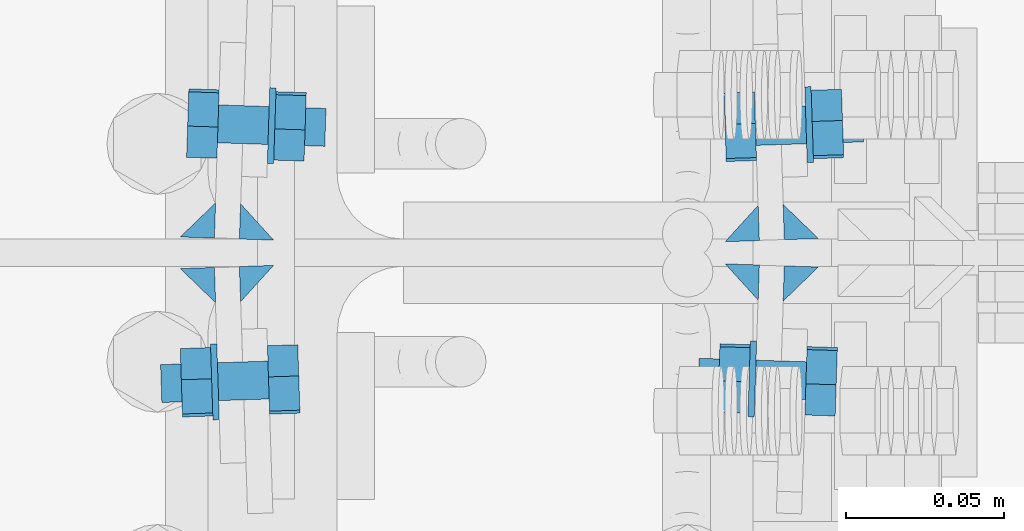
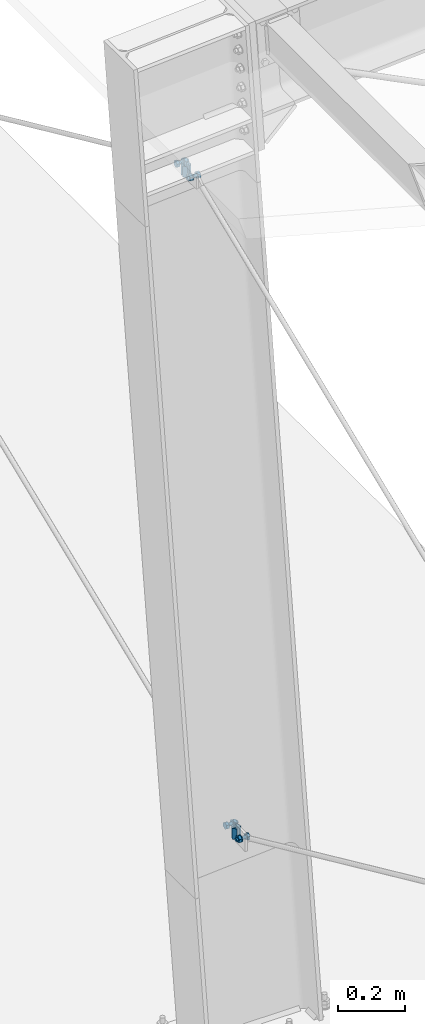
# One storey, part 43 of 72: 16 mechanical fasteners, 8 fasteners.
"""IFC4 building model written with IfcOpenShell, lengths in metres."""

from ifc_helpers import new_model, si_unit, frame, origin_with_axes, place, context, project, spatial, polyline, outline, extrude, type_object, element, save


model = new_model("IFC4")

# Units and contexts
model_context = context("Model", 3, precision=1e-05, world=origin_with_axes())
ifc_project = project(units=[si_unit("LENGTHUNIT", "METRE"), si_unit("AREAUNIT", "SQUARE_METRE"), si_unit("VOLUMEUNIT", "CUBIC_METRE"), si_unit("MASSUNIT", "GRAM", prefix="KILO"), si_unit("TIMEUNIT", "SECOND"), si_unit("PLANEANGLEUNIT", "RADIAN"), si_unit("SOLIDANGLEUNIT", "STERADIAN"), si_unit("THERMODYNAMICTEMPERATUREUNIT", "DEGREE_CELSIUS")], contexts=[model_context])

# Site, building, storey
placement_1 = place(None, origin_with_axes())
site = spatial("IfcSite", under=ifc_project, at=placement_1, Name="Italia", CompositionType="ELEMENT")
building = spatial("IfcBuilding", under=site, at=placement_1, Name="Pensilina", CompositionType="ELEMENT")
storey = spatial("IfcBuildingStorey", under=building, at=placement_1, Name="Storey 0", CompositionType="ELEMENT", Elevation=0.0)

# Mechanical fasteners
mechanical_fastener_type_1 = type_object("IfcMechanicalFastenerType", Name="Collegamento -198_-202", PredefinedType="BOLT")
placement_2 = place(placement_1, origin_with_axes())
mechanical_fastener_1_placement = place(placement_2, origin_with_axes())
element("IfcMechanicalFastener", 1, at=mechanical_fastener_1_placement, inside=storey, type_object=mechanical_fastener_type_1, Name="Collegamento -198_-202", NominalDiameter=0.0119996, context=model_context, shape_type="SweptSolid", body=[
    extrude(outline(polyline([(0.0, 0.0, 0.0), (0.0108347, -0.00515741, 0.0), (0.0207186, 0.00164735, 0.0), (0.0197678, 0.0136096, 0.0), (0.00893307, 0.0187671, 0.0), (-0.000951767, 0.0119622, 0.0), (0.0, 0.0, 0.0)])), frame((0.893182, 10.5096, 0.818424), z_axis=(0.999465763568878, -0.03268326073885, 0.0), x_axis=(0.03268326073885, 0.999465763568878, 0.0)), (0.0, 0.0, 1.0), 0.00959999),
])
mechanical_fastener_type_2 = type_object("IfcMechanicalFastenerType", Name="Collegamento -198_-202", PredefinedType="BOLT")
mechanical_fastener_2_placement = place(placement_2, origin_with_axes())
element("IfcMechanicalFastener", 2, at=mechanical_fastener_2_placement, inside=storey, type_object=mechanical_fastener_type_2, Name="Collegamento -198_-202", NominalDiameter=0.012, context=model_context, shape_type="SweptSolid", body=[
    extrude(outline(polyline([(0.0, 0.0, 0.0), (-0.00020504, -0.00155294, 0.0), (-0.000803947, -0.00300002, 0.0), (-0.00175762, -0.00424266, 0.0), (-0.00300026, -0.00519615, 0.0), (-0.00444794, -0.00579554, 0.0), (-0.00600052, -0.00599998, 0.0), (-0.0075531, -0.00579554, 0.0), (-0.00899982, -0.00519615, 0.0), (-0.0102425, -0.00424266, 0.0), (-0.0111971, -0.00300002, 0.0), (-0.011796, -0.00155294, 0.0), (-0.0120001, 0.0, 0.0), (-0.011796, 0.00155294, 0.0), (-0.0111971, 0.00300002, 0.0), (-0.0102425, 0.00424266, 0.0), (-0.00899982, 0.00519615, 0.0), (-0.0075531, 0.00579554, 0.0), (-0.00600052, 0.00599998, 0.0), (-0.00444794, 0.00579554, 0.0), (-0.00300026, 0.00519615, 0.0), (-0.00175762, 0.00424266, 0.0), (-0.000803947, 0.00300002, 0.0), (-0.00020504, 0.00155294, 0.0), (0.0, 0.0, 0.0)])), frame((0.859719, 10.5266, 0.825229), z_axis=(0.999465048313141, -0.032705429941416, 0.0), x_axis=(0.032705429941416, 0.999465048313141, 0.0)), (0.0, 0.0, 1.0), 0.034),
])
mechanical_fastener_type_3 = type_object("IfcMechanicalFastenerType", Name="Collegamento -198_-202", PredefinedType="BOLT")
mechanical_fastener_3_placement = place(placement_2, origin_with_axes())
element("IfcMechanicalFastener", 3, at=mechanical_fastener_3_placement, inside=storey, type_object=mechanical_fastener_type_3, Name="Collegamento -198_-202", NominalDiameter=0.0119995, context=model_context, shape_type="SweptSolid", body=[
    extrude(outline(polyline([(0.0, 0.0, 0.0), (0.0108356, -0.00515741, 0.0), (0.0207195, 0.00164735, 0.0), (0.0197678, 0.0136096, 0.0), (0.00893307, 0.0187671, 0.0), (-0.000951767, 0.0119622, 0.0), (0.0, 0.0, 0.0)])), frame((0.865596, 10.5105, 0.818424), z_axis=(0.999465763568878, -0.03268326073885, 0.0), x_axis=(0.03268326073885, 0.999465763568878, 0.0)), (0.0, 0.0, 1.0), 0.00959999),
])
mechanical_fastener_type_4 = type_object("IfcMechanicalFastenerType", Name="Collegamento -198_-202", PredefinedType="BOLT")
mechanical_fastener_4_placement = place(placement_2, origin_with_axes())
element("IfcMechanicalFastener", 4, at=mechanical_fastener_4_placement, inside=storey, type_object=mechanical_fastener_type_4, Name="Collegamento -198_-202", NominalDiameter=0.024, context=model_context, shape_type="SweptSolid", body=[
    extrude(outline(polyline([(0.0, 0.0, 0.0), (-0.000408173, -0.00310582, 0.0), (-0.00160789, -0.00599998, 0.0), (-0.00351429, -0.00848526, 0.0), (-0.00600052, -0.0103923, 0.0), (-0.00889397, -0.0115911, 0.0), (-0.0120001, -0.012, 0.0), (-0.0151062, -0.0115911, 0.0), (-0.0179996, -0.0103923, 0.0), (-0.0204859, -0.00848526, 0.0), (-0.0223923, -0.00599998, 0.0), (-0.023592, -0.00310582, 0.0), (-0.0240002, 0.0, 0.0), (-0.023592, 0.00310582, 0.0), (-0.0223923, 0.00599998, 0.0), (-0.0204859, 0.00848526, 0.0), (-0.0179996, 0.0103923, 0.0), (-0.0151062, 0.0115911, 0.0), (-0.0120001, 0.012, 0.0), (-0.00889397, 0.0115911, 0.0), (-0.00600052, 0.0103923, 0.0), (-0.00351429, 0.00848526, 0.0), (-0.00160789, 0.00599998, 0.0), (-0.000408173, 0.00310582, 0.0), (0.0, 0.0, 0.0)])), frame((0.875909, 10.5321, 0.825229), z_axis=(0.999458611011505, -0.032902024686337, 0.0), x_axis=(0.032902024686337, 0.999458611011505, 0.0)), (0.0, 0.0, 1.0), 0.00199998),
])

# Fasteners
fastener_type_1 = type_object("IfcFastenerType", Name="Collegamento -198_-202", PredefinedType="WELD")
fastener_1_placement = place(placement_2, origin_with_axes())
element("IfcFastener", 5, at=fastener_1_placement, inside=storey, type_object=fastener_type_1, Name="Collegamento -198_-202", context=model_context, shape_type="SweptSolid", body=[
    extrude(outline(polyline([(0.0, 0.0, 0.0), (-0.0115223, 0.0104669, 0.0), (-0.000354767, 0.0108324, 0.0), (0.0, 0.0, 0.0)])), frame((0.867914, 10.5565, 0.843087), z_axis=(0.0, 0.0, -1.0), x_axis=(0.0, 1.0, 0.0)), (0.0, 0.0, 1.0), 0.0400996),
])
fastener_type_2 = type_object("IfcFastenerType", Name="Collegamento -198_-202", PredefinedType="WELD")
fastener_2_placement = place(placement_2, origin_with_axes())
element("IfcFastener", 6, at=fastener_2_placement, inside=storey, type_object=fastener_type_2, Name="Collegamento -198_-202", context=model_context, shape_type="SweptSolid", body=[
    extrude(outline(polyline([(0.0, 0.0, 0.0), (-0.0108137, 0.0111977, 0.0), (0.000353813, 0.0108324, 0.0), (0.0, 0.0, 0.0)])), frame((0.897474, 10.5555, 0.802987), z_axis=(0.0, 0.0, 1.0), x_axis=(0.0, 1.0, 0.0)), (0.0, 0.0, 1.0), 0.0401001),
])

# Mechanical fasteners
mechanical_fastener_type_5 = type_object("IfcMechanicalFastenerType", Name="Collegamento -198_-204", PredefinedType="BOLT")
mechanical_fastener_5_placement = place(placement_2, origin_with_axes())
element("IfcMechanicalFastener", 7, at=mechanical_fastener_5_placement, inside=storey, type_object=mechanical_fastener_type_5, Name="Collegamento -198_-204", NominalDiameter=0.0119995, context=model_context, shape_type="SweptSolid", body=[
    extrude(outline(polyline([(0.0, 0.0, 0.0), (0.0108356, -0.00515741, 0.0), (0.0207186, 0.00164741, 0.0), (0.0197678, 0.0136096, 0.0), (0.00893307, 0.0187671, 0.0), (-0.000951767, 0.0119622, 0.0), (0.0, 0.0, 0.0)])), frame((0.87719, 10.6099, 0.818423), z_axis=(-0.999465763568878, -0.03268326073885, 0.0), x_axis=(0.03268326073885, -0.999465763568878, 0.0)), (0.0, 0.0, 1.0), 0.00959999),
])
mechanical_fastener_type_6 = type_object("IfcMechanicalFastenerType", Name="Collegamento -198_-204", PredefinedType="BOLT")
mechanical_fastener_6_placement = place(placement_2, origin_with_axes())
element("IfcMechanicalFastener", 8, at=mechanical_fastener_6_placement, inside=storey, type_object=mechanical_fastener_type_6, Name="Collegamento -198_-204", NominalDiameter=0.012, context=model_context, shape_type="SweptSolid", body=[
    extrude(outline(polyline([(0.0, 0.0, 0.0), (-0.000204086, -0.00155294, 0.0), (-0.000803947, -0.00300002, 0.0), (-0.00175762, -0.00424266, 0.0), (-0.00300026, -0.00519615, 0.0), (-0.00444794, -0.00579554, 0.0), (-0.00599957, -0.00599998, 0.0), (-0.00755215, -0.00579554, 0.0), (-0.00899982, -0.00519615, 0.0), (-0.0102425, -0.00424266, 0.0), (-0.0111961, -0.00300002, 0.0), (-0.011796, -0.00155294, 0.0), (-0.0120001, 0.0, 0.0), (-0.011796, 0.00155294, 0.0), (-0.0111961, 0.00300002, 0.0), (-0.0102425, 0.00424266, 0.0), (-0.00899982, 0.00519615, 0.0), (-0.00755215, 0.00579554, 0.0), (-0.00599957, 0.00599998, 0.0), (-0.00444794, 0.00579554, 0.0), (-0.00300026, 0.00519615, 0.0), (-0.00175762, 0.00424266, 0.0), (-0.000803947, 0.00300002, 0.0), (-0.000204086, 0.00155294, 0.0), (0.0, 0.0, 0.0)])), frame((0.911692, 10.5951, 0.825228), z_axis=(-0.999465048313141, -0.032705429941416, 0.0), x_axis=(0.032705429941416, -0.999465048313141, 0.0)), (0.0, 0.0, 1.0), 0.034),
])
mechanical_fastener_type_7 = type_object("IfcMechanicalFastenerType", Name="Collegamento -198_-204", PredefinedType="BOLT")
mechanical_fastener_7_placement = place(placement_2, origin_with_axes())
element("IfcMechanicalFastener", 9, at=mechanical_fastener_7_placement, inside=storey, type_object=mechanical_fastener_type_7, Name="Collegamento -198_-204", NominalDiameter=0.0119996, context=model_context, shape_type="SweptSolid", body=[
    extrude(outline(polyline([(0.0, 0.0, 0.0), (0.0108347, -0.00515741, 0.0), (0.0207195, 0.00164741, 0.0), (0.0197678, 0.0136096, 0.0), (0.00893307, 0.0187671, 0.0), (-0.000950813, 0.0119622, 0.0), (0.0, 0.0, 0.0)])), frame((0.904776, 10.6108, 0.818423), z_axis=(-0.999465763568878, -0.032683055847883, 0.0), x_axis=(0.032683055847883, -0.999465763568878, 0.0)), (0.0, 0.0, 1.0), 0.00960005),
])
mechanical_fastener_type_8 = type_object("IfcMechanicalFastenerType", Name="Collegamento -198_-204", PredefinedType="BOLT")
mechanical_fastener_8_placement = place(placement_2, origin_with_axes())
element("IfcMechanicalFastener", 10, at=mechanical_fastener_8_placement, inside=storey, type_object=mechanical_fastener_type_8, Name="Collegamento -198_-204", NominalDiameter=0.024, context=model_context, shape_type="SweptSolid", body=[
    extrude(outline(polyline([(0.0, 0.0, 0.0), (-0.000408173, -0.00310582, 0.0), (-0.00160789, -0.00599998, 0.0), (-0.00351429, -0.00848526, 0.0), (-0.00599957, -0.0103923, 0.0), (-0.00889397, -0.0115911, 0.0), (-0.0120001, -0.012, 0.0), (-0.0151052, -0.0115911, 0.0), (-0.0179996, -0.0103923, 0.0), (-0.0204859, -0.00848526, 0.0), (-0.0223923, -0.00599998, 0.0), (-0.023591, -0.00310582, 0.0), (-0.0240002, 0.0, 0.0), (-0.023591, 0.00310582, 0.0), (-0.0223923, 0.00599998, 0.0), (-0.0204859, 0.00848526, 0.0), (-0.0179996, 0.0103923, 0.0), (-0.0151052, 0.0115911, 0.0), (-0.0120001, 0.012, 0.0), (-0.00889397, 0.0115911, 0.0), (-0.00599957, 0.0103923, 0.0), (-0.00351429, 0.00848526, 0.0), (-0.00160789, 0.00599998, 0.0), (-0.000408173, 0.00310582, 0.0), (0.0, 0.0, 0.0)])), frame((0.895899, 10.5886, 0.825228), z_axis=(-0.999458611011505, -0.032902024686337, 0.0), x_axis=(0.032902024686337, -0.999458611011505, 0.0)), (0.0, 0.0, 1.0), 0.00199998),
])

# Fasteners
fastener_type_3 = type_object("IfcFastenerType", Name="Collegamento -198_-204", PredefinedType="WELD")
fastener_3_placement = place(placement_2, origin_with_axes())
element("IfcFastener", 11, at=fastener_3_placement, inside=storey, type_object=fastener_type_3, Name="Collegamento -198_-204", context=model_context, shape_type="SweptSolid", body=[
    extrude(outline(polyline([(0.0, 0.0, 0.0), (0.0108137, -0.0111977, 0.0), (-0.000353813, -0.0108324, 0.0), (0.0, 0.0, 0.0)])), frame((0.897474, 10.5645, 0.843087), z_axis=(0.0, 0.0, -1.0), x_axis=(0.0, 1.0, 0.0)), (0.0, 0.0, 1.0), 0.0401001),
])
fastener_type_4 = type_object("IfcFastenerType", Name="Collegamento -198_-204", PredefinedType="WELD")
fastener_4_placement = place(placement_2, origin_with_axes())
element("IfcFastener", 12, at=fastener_4_placement, inside=storey, type_object=fastener_type_4, Name="Collegamento -198_-204", context=model_context, shape_type="SweptSolid", body=[
    extrude(outline(polyline([(0.0, 0.0, 0.0), (0.0115223, -0.0104669, 0.0), (0.000354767, -0.0108324, 0.0), (0.0, 0.0, 0.0)])), frame((0.867914, 10.5635, 0.802987), z_axis=(0.0, 0.0, 1.0), x_axis=(0.0, 1.0, 0.0)), (0.0, 0.0, 1.0), 0.0401001),
])

# Mechanical fasteners
mechanical_fastener_type_9 = type_object("IfcMechanicalFastenerType", Name="Collegamento -203_-197", PredefinedType="BOLT")
mechanical_fastener_9_placement = place(placement_2, origin_with_axes())
element("IfcMechanicalFastener", 13, at=mechanical_fastener_9_placement, inside=storey, type_object=mechanical_fastener_type_9, Name="Collegamento -203_-197", NominalDiameter=0.0119997, context=model_context, shape_type="SweptSolid", body=[
    extrude(outline(polyline([(0.0, 0.0, 0.0), (0.0108347, 0.00515747, 0.0), (0.0117865, 0.0171196, 0.0), (0.00190163, 0.0239246, 0.0), (-0.00893307, 0.0187671, 0.0), (-0.00988388, 0.00680494, 0.0), (0.0, 0.0, 0.0)])), frame((0.723424, 10.5188, 3.28936), z_axis=(0.999465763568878, 0.03268326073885, 0.0), x_axis=(-0.03268326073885, 0.999465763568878, 0.0)), (0.0, 0.0, 1.0), 0.00959999),
])
mechanical_fastener_type_10 = type_object("IfcMechanicalFastenerType", Name="Collegamento -203_-197", PredefinedType="BOLT")
mechanical_fastener_10_placement = place(placement_2, origin_with_axes())
element("IfcMechanicalFastener", 14, at=mechanical_fastener_10_placement, inside=storey, type_object=mechanical_fastener_type_10, Name="Collegamento -203_-197", NominalDiameter=0.012, context=model_context, shape_type="SweptSolid", body=[
    extrude(outline(polyline([(0.0, 0.0, 0.0), (-0.000204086, -0.00155282, 0.0), (-0.000802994, -0.00300002, 0.0), (-0.00175762, -0.00424266, 0.0), (-0.00299931, -0.00519609, 0.0), (-0.00444698, -0.00579548, 0.0), (-0.00599957, -0.00600004, 0.0), (-0.00755215, -0.00579548, 0.0), (-0.00899982, -0.00519609, 0.0), (-0.0102415, -0.00424266, 0.0), (-0.0111961, -0.00300002, 0.0), (-0.011795, -0.00155282, 0.0), (-0.0119991, 0.0, 0.0), (-0.011795, 0.00155282, 0.0), (-0.0111961, 0.00300002, 0.0), (-0.0102415, 0.00424266, 0.0), (-0.00899982, 0.00519609, 0.0), (-0.00755215, 0.00579548, 0.0), (-0.00599957, 0.00600004, 0.0), (-0.00444698, 0.00579548, 0.0), (-0.00299931, 0.00519609, 0.0), (-0.00175762, 0.00424266, 0.0), (-0.000802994, 0.00300002, 0.0), (-0.000204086, 0.00155282, 0.0), (0.0, 0.0, 0.0)])), frame((0.689215, 10.5246, 3.30132), z_axis=(0.999465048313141, 0.032705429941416, 0.0), x_axis=(-0.032705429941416, 0.999465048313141, 0.0)), (0.0, 0.0, 1.0), 0.034),
])
mechanical_fastener_type_11 = type_object("IfcMechanicalFastenerType", Name="Collegamento -203_-197", PredefinedType="BOLT")
mechanical_fastener_11_placement = place(placement_2, origin_with_axes())
element("IfcMechanicalFastener", 15, at=mechanical_fastener_11_placement, inside=storey, type_object=mechanical_fastener_type_11, Name="Collegamento -203_-197", NominalDiameter=0.0119996, context=model_context, shape_type="SweptSolid", body=[
    extrude(outline(polyline([(0.0, 0.0, 0.0), (0.0108356, 0.00515747, 0.0), (0.0117874, 0.0171196, 0.0), (0.00190258, 0.0239246, 0.0), (-0.00893307, 0.0187671, 0.0), (-0.00988388, 0.00680494, 0.0), (0.0, 0.0, 0.0)])), frame((0.695839, 10.5179, 3.28936), z_axis=(0.999465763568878, 0.03268326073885, 0.0), x_axis=(-0.03268326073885, 0.999465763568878, 0.0)), (0.0, 0.0, 1.0), 0.00959999),
])
mechanical_fastener_type_12 = type_object("IfcMechanicalFastenerType", Name="Collegamento -203_-197", PredefinedType="BOLT")
mechanical_fastener_12_placement = place(placement_2, origin_with_axes())
element("IfcMechanicalFastener", 16, at=mechanical_fastener_12_placement, inside=storey, type_object=mechanical_fastener_type_12, Name="Collegamento -203_-197", NominalDiameter=0.024, context=model_context, shape_type="SweptSolid", body=[
    extrude(outline(polyline([(0.0, 0.0, 0.0), (-0.000408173, -0.00310588, 0.0), (-0.00160789, -0.00600004, 0.0), (-0.00351429, -0.00848532, 0.0), (-0.00599957, -0.0103922, 0.0), (-0.00889397, -0.0115912, 0.0), (-0.0120001, -0.0120001, 0.0), (-0.0151052, -0.0115912, 0.0), (-0.0179996, -0.0103922, 0.0), (-0.0204849, -0.00848532, 0.0), (-0.0223913, -0.00600004, 0.0), (-0.023591, -0.00310588, 0.0), (-0.0239992, 0.0, 0.0), (-0.023591, 0.00310588, 0.0), (-0.0223913, 0.00600004, 0.0), (-0.0204849, 0.00848532, 0.0), (-0.0179996, 0.0103922, 0.0), (-0.0151052, 0.0115912, 0.0), (-0.0120001, 0.0120001, 0.0), (-0.00889397, 0.0115912, 0.0), (-0.00599957, 0.0103922, 0.0), (-0.00351429, 0.00848532, 0.0), (-0.00160789, 0.00600004, 0.0), (-0.000408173, 0.00310588, 0.0), (0.0, 0.0, 0.0)])), frame((0.705014, 10.5311, 3.30132), z_axis=(0.999474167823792, 0.032424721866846, 0.0), x_axis=(-0.032424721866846, 0.999474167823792, 0.0)), (0.0, 0.0, 1.0), 0.00200001),
])

# Fasteners
fastener_type_5 = type_object("IfcFastenerType", Name="Collegamento -203_-197", PredefinedType="WELD")
fastener_5_placement = place(placement_2, origin_with_axes())
element("IfcFastener", 17, at=fastener_5_placement, inside=storey, type_object=fastener_type_5, Name="Collegamento -203_-197", context=model_context, shape_type="SweptSolid", body=[
    extrude(outline(polyline([(0.0, 0.0, 0.0), (-0.0108128, 0.0111977, 0.0), (0.000354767, 0.0108324, 0.0), (0.0, 0.0, 0.0)])), frame((0.695437, 10.555, 3.32256), z_axis=(0.0, 0.0, -1.0), x_axis=(0.0, 1.0, 0.0)), (0.0, 0.0, 1.0), 0.0401006),
])
fastener_type_6 = type_object("IfcFastenerType", Name="Collegamento -203_-197", PredefinedType="WELD")
fastener_6_placement = place(placement_2, origin_with_axes())
element("IfcFastener", 18, at=fastener_6_placement, inside=storey, type_object=fastener_type_6, Name="Collegamento -203_-197", context=model_context, shape_type="SweptSolid", body=[
    extrude(outline(polyline([(0.0, 0.0, 0.0), (-0.0115213, 0.010467, 0.0), (-0.000353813, 0.0108324, 0.0), (0.0, 0.0, 0.0)])), frame((0.724997, 10.556, 3.28246), z_axis=(0.0, 0.0, 1.0), x_axis=(0.0, 1.0, 0.0)), (0.0, 0.0, 1.0), 0.0401006),
])

# Mechanical fasteners
mechanical_fastener_type_13 = type_object("IfcMechanicalFastenerType", Name="Collegamento -203_-199", PredefinedType="BOLT")
mechanical_fastener_13_placement = place(placement_2, origin_with_axes())
element("IfcMechanicalFastener", 19, at=mechanical_fastener_13_placement, inside=storey, type_object=mechanical_fastener_type_13, Name="Collegamento -203_-199", NominalDiameter=0.0119994, context=model_context, shape_type="SweptSolid", body=[
    extrude(outline(polyline([(0.0, 0.0, 0.0), (0.0108356, 0.00515747, 0.0), (0.0117855, 0.0171199, 0.0), (0.00190258, 0.0239246, 0.0), (-0.00893307, 0.0187671, 0.0), (-0.00988388, 0.00680494, 0.0), (0.0, 0.0, 0.0)])), frame((0.707433, 10.6017, 3.28936), z_axis=(-0.999465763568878, 0.03268326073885, 0.0), x_axis=(-0.03268326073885, -0.999465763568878, 0.0)), (0.0, 0.0, 1.0), 0.00959999),
])
mechanical_fastener_type_14 = type_object("IfcMechanicalFastenerType", Name="Collegamento -203_-199", PredefinedType="BOLT")
mechanical_fastener_14_placement = place(placement_2, origin_with_axes())
element("IfcMechanicalFastener", 20, at=mechanical_fastener_14_placement, inside=storey, type_object=mechanical_fastener_type_14, Name="Collegamento -203_-199", NominalDiameter=0.012, context=model_context, shape_type="SweptSolid", body=[
    extrude(outline(polyline([(0.0, 0.0, 0.0), (-0.000204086, -0.00155282, 0.0), (-0.000802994, -0.00300002, 0.0), (-0.00175762, -0.00424266, 0.0), (-0.00300026, -0.00519609, 0.0), (-0.00444698, -0.00579548, 0.0), (-0.00599957, -0.00600004, 0.0), (-0.00755215, -0.00579548, 0.0), (-0.00899982, -0.00519609, 0.0), (-0.0102425, -0.00424266, 0.0), (-0.0111961, -0.00300002, 0.0), (-0.011796, -0.00155282, 0.0), (-0.0120001, 0.0, 0.0), (-0.011796, 0.00155282, 0.0), (-0.0111961, 0.00300002, 0.0), (-0.0102425, 0.00424266, 0.0), (-0.00899982, 0.00519609, 0.0), (-0.00755215, 0.00579548, 0.0), (-0.00599957, 0.00600004, 0.0), (-0.00444698, 0.00579548, 0.0), (-0.00300026, 0.00519609, 0.0), (-0.00175762, 0.00424266, 0.0), (-0.000802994, 0.00300002, 0.0), (-0.000204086, 0.00155282, 0.0), (0.0, 0.0, 0.0)])), frame((0.741187, 10.5937, 3.30132), z_axis=(-0.999465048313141, 0.032705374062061, 0.0), x_axis=(-0.032705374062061, -0.999465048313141, 0.0)), (0.0, 0.0, 1.0), 0.0340001),
])
mechanical_fastener_type_15 = type_object("IfcMechanicalFastenerType", Name="Collegamento -203_-199", PredefinedType="BOLT")
mechanical_fastener_15_placement = place(placement_2, origin_with_axes())
element("IfcMechanicalFastener", 21, at=mechanical_fastener_15_placement, inside=storey, type_object=mechanical_fastener_type_15, Name="Collegamento -203_-199", NominalDiameter=0.0119997, context=model_context, shape_type="SweptSolid", body=[
    extrude(outline(polyline([(0.0, 0.0, 0.0), (0.0108347, 0.00515747, 0.0), (0.0117865, 0.0171199, 0.0), (0.00190163, 0.0239246, 0.0), (-0.00893307, 0.0187671, 0.0), (-0.00988483, 0.00680494, 0.0), (0.0, 0.0, 0.0)])), frame((0.735018, 10.6008, 3.28936), z_axis=(-0.999462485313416, 0.03278249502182, 0.0), x_axis=(-0.03278249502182, -0.999462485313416, 0.0)), (0.0, 0.0, 1.0), 0.00960002),
])
mechanical_fastener_type_16 = type_object("IfcMechanicalFastenerType", Name="Collegamento -203_-199", PredefinedType="BOLT")
mechanical_fastener_16_placement = place(placement_2, origin_with_axes())
element("IfcMechanicalFastener", 22, at=mechanical_fastener_16_placement, inside=storey, type_object=mechanical_fastener_type_16, Name="Collegamento -203_-199", NominalDiameter=0.024, context=model_context, shape_type="SweptSolid", body=[
    extrude(outline(polyline([(0.0, 0.0, 0.0), (-0.000408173, -0.00310588, 0.0), (-0.00160789, -0.00600004, 0.0), (-0.00351429, -0.00848532, 0.0), (-0.00599957, -0.0103922, 0.0), (-0.00889397, -0.0115912, 0.0), (-0.0119991, -0.0120001, 0.0), (-0.0151052, -0.0115912, 0.0), (-0.0179996, -0.0103922, 0.0), (-0.0204849, -0.00848532, 0.0), (-0.0223913, -0.00600004, 0.0), (-0.023591, -0.00310588, 0.0), (-0.0239992, 0.0, 0.0), (-0.023591, 0.00310588, 0.0), (-0.0223913, 0.00600004, 0.0), (-0.0204849, 0.00848532, 0.0), (-0.0179996, 0.0103922, 0.0), (-0.0151052, 0.0115912, 0.0), (-0.0119991, 0.0120001, 0.0), (-0.00889397, 0.0115912, 0.0), (-0.00599957, 0.0103922, 0.0), (-0.00351429, 0.00848532, 0.0), (-0.00160789, 0.00600004, 0.0), (-0.000408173, 0.00310588, 0.0), (0.0, 0.0, 0.0)])), frame((0.725003, 10.5882, 3.30132), z_axis=(-0.999474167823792, 0.032424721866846, 0.0), x_axis=(-0.032424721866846, -0.999474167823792, 0.0)), (0.0, 0.0, 1.0), 0.00200001),
])

# Fasteners
fastener_type_7 = type_object("IfcFastenerType", Name="Collegamento -203_-199", PredefinedType="WELD")
fastener_7_placement = place(placement_2, origin_with_axes())
element("IfcFastener", 23, at=fastener_7_placement, inside=storey, type_object=fastener_type_7, Name="Collegamento -203_-199", context=model_context, shape_type="SweptSolid", body=[
    extrude(outline(polyline([(0.0, 0.0, 0.0), (0.0115213, -0.010467, 0.0), (0.000353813, -0.0108324, 0.0), (0.0, 0.0, 0.0)])), frame((0.724997, 10.564, 3.32256), z_axis=(0.0, 0.0, -1.0), x_axis=(0.0, 1.0, 0.0)), (0.0, 0.0, 1.0), 0.0401011),
])
fastener_type_8 = type_object("IfcFastenerType", Name="Collegamento -203_-199", PredefinedType="WELD")
fastener_8_placement = place(placement_2, origin_with_axes())
element("IfcFastener", 24, at=fastener_8_placement, inside=storey, type_object=fastener_type_8, Name="Collegamento -203_-199", context=model_context, shape_type="SweptSolid", body=[
    extrude(outline(polyline([(0.0, 0.0, 0.0), (0.0108128, -0.0111977, 0.0), (-0.000354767, -0.0108324, 0.0), (0.0, 0.0, 0.0)])), frame((0.695437, 10.565, 3.28246), z_axis=(1.486378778e-06, 0.0, 1.0), x_axis=(0.0, 1.0, 0.0)), (0.0, 0.0, 1.0), 0.0401006),
])

save(model, "model.ifc")
